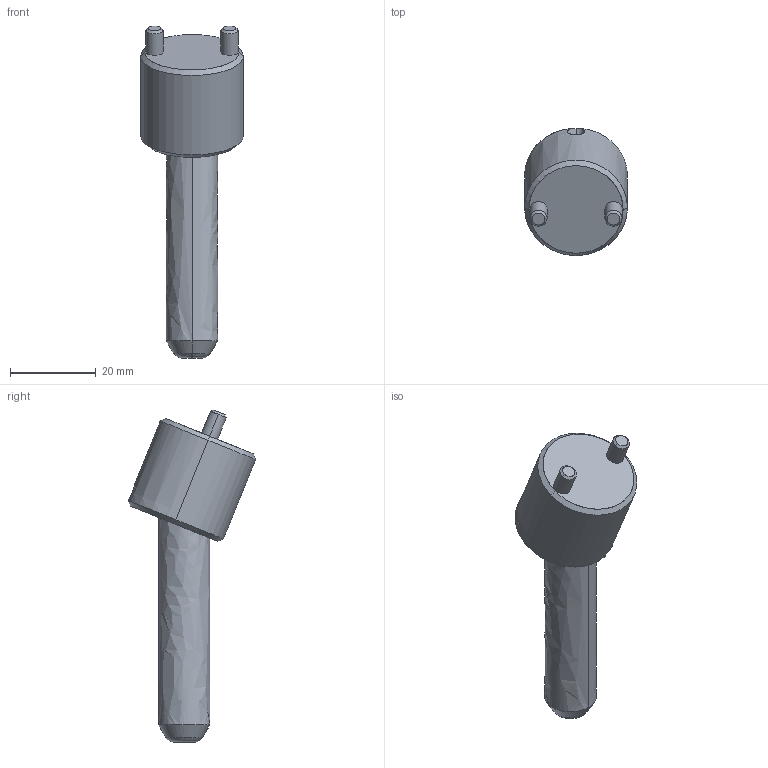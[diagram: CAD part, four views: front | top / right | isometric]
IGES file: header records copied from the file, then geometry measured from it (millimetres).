
Start section: START RECORD GO HERE.
Global section: file name: CI2212050.igs; native system: DASSAULT SYSTEMES CATIA V5 R20 - www.3ds.com; preprocessor: CATIA Version 5 Release 20 ; author: r.borello; organization: CFTORINO; date: 20190621.121910; units: millimetre
Bounding box: 24 x 29.7 x 77.46 mm (x, y, z)
Surface area: 6068.1 mm2 (no closed solid volume)
Topology: 0 solids, 0 shells, 39 faces, 168 edges, 166 vertices
Faces by surface type: revolution 32, plane 7
